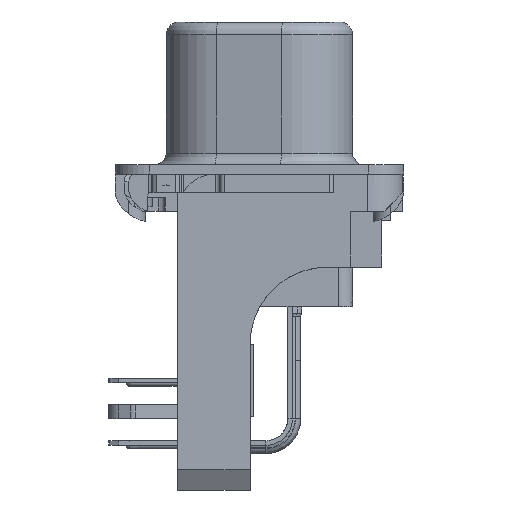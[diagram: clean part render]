
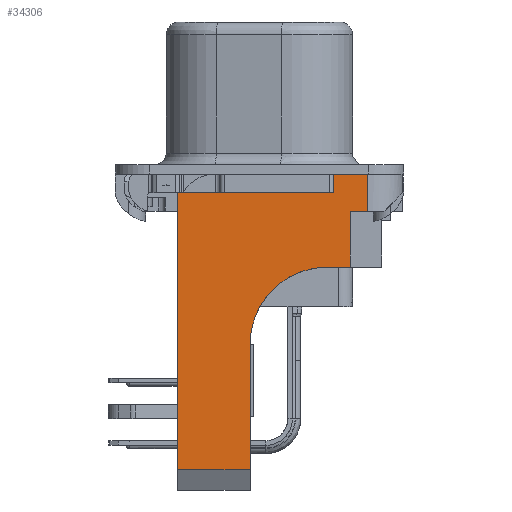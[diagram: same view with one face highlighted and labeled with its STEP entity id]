
A CAD part, front view. The second image highlights one B-rep face of the part: STEP entity #34306.
In plain terms, the highlighted planar face has unit normal (0, -1, 0).
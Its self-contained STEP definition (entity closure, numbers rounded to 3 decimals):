
#31218=PLANE('',#92004);
#34306=ADVANCED_FACE('',(#38707),#31218,.T.);
#38707=FACE_OUTER_BOUND('',#42328,.T.);
#42328=EDGE_LOOP('',(#58483,#58484,#58485,#58486,#58487,#58488,#58489,#58490,
#58491,#58492,#58493));
#44689=CIRCLE('',#91905,3.3);
#58483=ORIENTED_EDGE('',*,*,#75594,.T.);
#58484=ORIENTED_EDGE('',*,*,#75771,.T.);
#58485=ORIENTED_EDGE('',*,*,#75798,.T.);
#58486=ORIENTED_EDGE('',*,*,#75794,.T.);
#58487=ORIENTED_EDGE('',*,*,#75799,.T.);
#58488=ORIENTED_EDGE('',*,*,#75800,.T.);
#58489=ORIENTED_EDGE('',*,*,#75801,.T.);
#58490=ORIENTED_EDGE('',*,*,#75802,.T.);
#58491=ORIENTED_EDGE('',*,*,#75803,.T.);
#58492=ORIENTED_EDGE('',*,*,#75727,.T.);
#58493=ORIENTED_EDGE('',*,*,#75590,.T.);
#67389=VERTEX_POINT('',#141309);
#67390=VERTEX_POINT('',#141311);
#67392=VERTEX_POINT('',#141318);
#67468=VERTEX_POINT('',#141589);
#67493=VERTEX_POINT('',#141694);
#67505=VERTEX_POINT('',#141738);
#67507=VERTEX_POINT('',#141741);
#67510=VERTEX_POINT('',#141750);
#67511=VERTEX_POINT('',#141752);
#67512=VERTEX_POINT('',#141754);
#67513=VERTEX_POINT('',#141756);
#75590=EDGE_CURVE('',#67390,#67389,#82139,.T.);
#75594=EDGE_CURVE('',#67389,#67392,#44689,.T.);
#75727=EDGE_CURVE('',#67468,#67390,#82257,.T.);
#75771=EDGE_CURVE('',#67392,#67493,#82286,.T.);
#75794=EDGE_CURVE('',#67507,#67505,#82307,.T.);
#75798=EDGE_CURVE('',#67493,#67507,#82311,.T.);
#75799=EDGE_CURVE('',#67505,#67510,#82312,.T.);
#75800=EDGE_CURVE('',#67510,#67511,#82313,.T.);
#75801=EDGE_CURVE('',#67511,#67512,#82314,.T.);
#75802=EDGE_CURVE('',#67512,#67513,#82315,.T.);
#75803=EDGE_CURVE('',#67513,#67468,#82316,.T.);
#82139=LINE('',#141310,#87575);
#82257=LINE('',#141592,#87693);
#82286=LINE('',#141695,#87722);
#82307=LINE('',#141740,#87743);
#82311=LINE('',#141748,#87747);
#82312=LINE('',#141749,#87748);
#82313=LINE('',#141751,#87749);
#82314=LINE('',#141753,#87750);
#82315=LINE('',#141755,#87751);
#82316=LINE('',#141757,#87752);
#87575=VECTOR('',#102826,1.);
#87693=VECTOR('',#103066,1.);
#87722=VECTOR('',#103149,1.);
#87743=VECTOR('',#103192,1.);
#87747=VECTOR('',#103198,1.);
#87748=VECTOR('',#103199,1.);
#87749=VECTOR('',#103200,1.);
#87750=VECTOR('',#103201,1.);
#87751=VECTOR('',#103202,1.);
#87752=VECTOR('',#103203,1.);
#91905=AXIS2_PLACEMENT_3D('',#141317,#102832,#102833);
#92004=AXIS2_PLACEMENT_3D('',#141758,#103204,#103205);
#102826=DIRECTION('',(0.,0.,1.));
#102832=DIRECTION('',(0.,1.,0.));
#102833=DIRECTION('',(-1.,0.,0.));
#103066=DIRECTION('',(1.,0.,0.));
#103149=DIRECTION('',(1.,0.,0.));
#103192=DIRECTION('',(1.,0.,0.));
#103198=DIRECTION('',(0.,0.,1.));
#103199=DIRECTION('',(0.,0.,1.));
#103200=DIRECTION('',(-1.,0.,0.));
#103201=DIRECTION('',(0.,0.,-1.));
#103202=DIRECTION('',(-1.,0.,0.));
#103203=DIRECTION('',(0.,0.,-1.));
#103204=DIRECTION('',(0.,-1.,0.));
#103205=DIRECTION('',(1.,0.,0.));
#141309=CARTESIAN_POINT('',(-0.4,-26.6,-7.3));
#141310=CARTESIAN_POINT('',(-0.4,-26.6,-12.704));
#141311=CARTESIAN_POINT('',(-0.4,-26.6,-12.704));
#141317=CARTESIAN_POINT('',(2.9,-26.6,-7.3));
#141318=CARTESIAN_POINT('',(2.9,-26.6,-4.));
#141589=CARTESIAN_POINT('',(-3.5,-26.6,-12.704));
#141592=CARTESIAN_POINT('',(-3.5,-26.6,-12.704));
#141694=CARTESIAN_POINT('',(3.9,-26.6,-4.));
#141695=CARTESIAN_POINT('',(2.9,-26.6,-4.));
#141738=CARTESIAN_POINT('',(4.65,-26.6,-1.6));
#141740=CARTESIAN_POINT('',(3.9,-26.6,-1.6));
#141741=CARTESIAN_POINT('',(3.9,-26.6,-1.6));
#141748=CARTESIAN_POINT('',(3.9,-26.6,-4.));
#141749=CARTESIAN_POINT('',(4.65,-26.6,-1.6));
#141750=CARTESIAN_POINT('',(4.65,-26.6,0.));
#141751=CARTESIAN_POINT('',(4.65,-26.6,0.));
#141752=CARTESIAN_POINT('',(3.2,-26.6,0.));
#141753=CARTESIAN_POINT('',(3.2,-26.6,0.));
#141754=CARTESIAN_POINT('',(3.2,-26.6,-0.8));
#141755=CARTESIAN_POINT('',(3.2,-26.6,-0.8));
#141756=CARTESIAN_POINT('',(-3.5,-26.6,-0.8));
#141757=CARTESIAN_POINT('',(-3.5,-26.6,-0.8));
#141758=CARTESIAN_POINT('',(-3.775,-26.6,-13.67));
